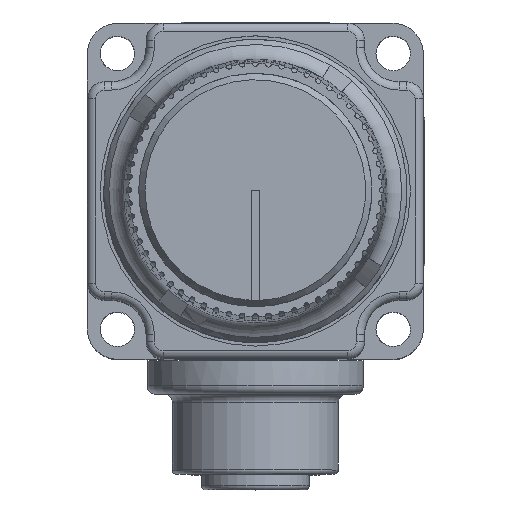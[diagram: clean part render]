
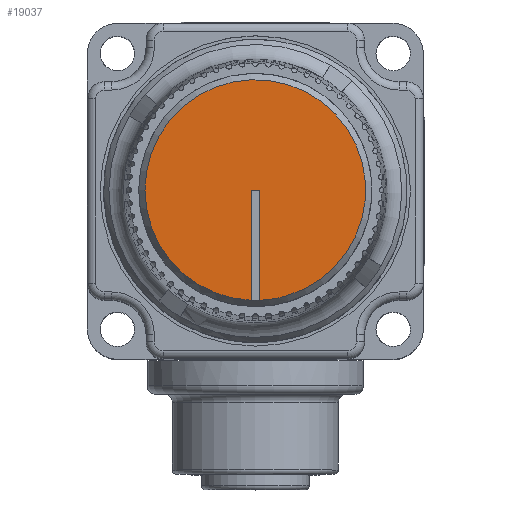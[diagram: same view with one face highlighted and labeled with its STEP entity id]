
A CAD part, top view. The second image highlights one B-rep face of the part: STEP entity #19037.
In plain terms, the highlighted planar face has unit normal (0, 0, 1).
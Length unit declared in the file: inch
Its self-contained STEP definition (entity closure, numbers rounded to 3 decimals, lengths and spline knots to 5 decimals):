
#957=PLANE('',#20682);
#1789=FACE_OUTER_BOUND('',#2899,.T.);
#2899=EDGE_LOOP('',(#15010,#15011,#15012,#15013,#15014));
#3777=CIRCLE('',#20683,0.4);
#3778=CIRCLE('',#20684,0.4);
#5315=LINE('',#32448,#6696);
#5316=LINE('',#32454,#6697);
#5317=LINE('',#32455,#6698);
#6696=VECTOR('',#24911,0.3937);
#6697=VECTOR('',#24916,0.3937);
#6698=VECTOR('',#24917,0.3937);
#8260=VERTEX_POINT('',#32446);
#8261=VERTEX_POINT('',#32447);
#8262=VERTEX_POINT('',#32449);
#8263=VERTEX_POINT('',#32451);
#8264=VERTEX_POINT('',#32453);
#10619=EDGE_CURVE('',#8260,#8261,#5315,.T.);
#10620=EDGE_CURVE('',#8261,#8262,#3777,.T.);
#10621=EDGE_CURVE('',#8262,#8263,#3778,.T.);
#10622=EDGE_CURVE('',#8263,#8264,#5316,.T.);
#10623=EDGE_CURVE('',#8264,#8260,#5317,.T.);
#15010=ORIENTED_EDGE('',*,*,#10619,.T.);
#15011=ORIENTED_EDGE('',*,*,#10620,.T.);
#15012=ORIENTED_EDGE('',*,*,#10621,.T.);
#15013=ORIENTED_EDGE('',*,*,#10622,.T.);
#15014=ORIENTED_EDGE('',*,*,#10623,.T.);
#19037=ADVANCED_FACE('',(#1789),#957,.T.);
#20682=AXIS2_PLACEMENT_3D('',#32445,#24909,#24910);
#20683=AXIS2_PLACEMENT_3D('',#32450,#24912,#24913);
#20684=AXIS2_PLACEMENT_3D('',#32452,#24914,#24915);
#24909=DIRECTION('center_axis',(0.,0.,1.));
#24910=DIRECTION('ref_axis',(1.,0.,0.));
#24911=DIRECTION('',(0.,-1.,0.));
#24912=DIRECTION('center_axis',(0.,0.,
1.));
#24913=DIRECTION('ref_axis',(0.325,0.946,0.));
#24914=DIRECTION('center_axis',(0.,0.,
1.));
#24915=DIRECTION('ref_axis',(0.325,0.946,0.));
#24916=DIRECTION('',(0.,1.,0.));
#24917=DIRECTION('',(1.,0.,0.));
#32445=CARTESIAN_POINT('Origin',(-0.77184,-0.33713,1.82375));
#32446=CARTESIAN_POINT('',(-0.75684,0.06298,1.82375));
#32447=CARTESIAN_POINT('',(-0.75684,-0.33673,1.82375));
#32448=CARTESIAN_POINT('',(-0.75684,0.06298,1.82375));
#32449=CARTESIAN_POINT('',(-0.65766,-0.32037,1.82375));
#32450=CARTESIAN_POINT('Origin',(-0.77184,0.06298,
1.82375));
#32451=CARTESIAN_POINT('',(-0.78684,-0.33673,1.82375));
#32452=CARTESIAN_POINT('Origin',(-0.77184,0.06298,
1.82375));
#32453=CARTESIAN_POINT('',(-0.78684,0.06298,1.82375));
#32454=CARTESIAN_POINT('',(-0.78684,-0.33673,1.82375));
#32455=CARTESIAN_POINT('',(-0.78684,0.06298,1.82375));
